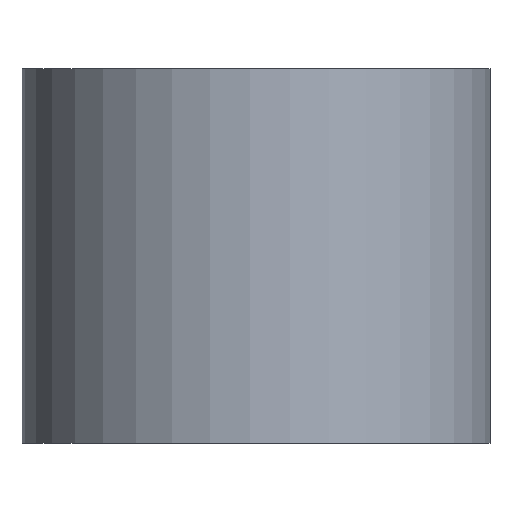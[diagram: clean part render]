
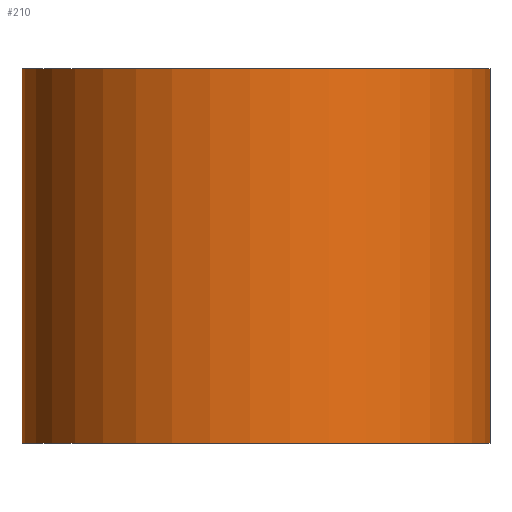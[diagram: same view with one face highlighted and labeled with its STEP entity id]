
A CAD part, front view. The second image highlights one B-rep face of the part: STEP entity #210.
In plain terms, the highlighted cylindrical face has radius 10 mm (diameter 20 mm), a partial arc.
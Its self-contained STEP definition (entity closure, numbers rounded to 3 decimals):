
#6 = AXIS2_PLACEMENT_3D ( 'NONE', #239, #110, #96 ) ;
#22 = FACE_OUTER_BOUND ( 'NONE', #216, .T. ) ;
#32 = DIRECTION ( 'NONE',  ( 0., 0., 1. ) ) ;
#37 = EDGE_CURVE ( 'NONE', #172, #196, #153, .T. ) ;
#50 = CARTESIAN_POINT ( 'NONE',  ( 9.987, -0.5, 0. ) ) ;
#61 = CARTESIAN_POINT ( 'NONE',  ( -10., 0., 16. ) ) ;
#62 = DIRECTION ( 'NONE',  ( 0., 0., 1. ) ) ;
#64 = AXIS2_PLACEMENT_3D ( 'NONE', #128, #85, #178 ) ;
#68 = DIRECTION ( 'NONE',  ( 0., 0., -1. ) ) ;
#76 = VERTEX_POINT ( 'NONE', #161 ) ;
#78 = EDGE_CURVE ( 'NONE', #172, #76, #154, .T. ) ;
#85 = DIRECTION ( 'NONE',  ( 0., 0., -1. ) ) ;
#87 = VECTOR ( 'NONE', #62, 1000. ) ;
#96 = DIRECTION ( 'NONE',  ( 1., 0., 0. ) ) ;
#110 = DIRECTION ( 'NONE',  ( 0., 0., 1. ) ) ;
#128 = CARTESIAN_POINT ( 'NONE',  ( 0., 0., 16. ) ) ;
#129 = ORIENTED_EDGE ( 'NONE', *, *, #37, .T. ) ;
#132 = ORIENTED_EDGE ( 'NONE', *, *, #260, .T. ) ;
#153 = LINE ( 'NONE', #242, #204 ) ;
#154 = CIRCLE ( 'NONE', #166, 10. ) ;
#155 = VERTEX_POINT ( 'NONE', #50 ) ;
#161 = CARTESIAN_POINT ( 'NONE',  ( 9.987, -0.5, 16. ) ) ;
#166 = AXIS2_PLACEMENT_3D ( 'NONE', #175, #32, #221 ) ;
#172 = VERTEX_POINT ( 'NONE', #61 ) ;
#175 = CARTESIAN_POINT ( 'NONE',  ( 0., 0., 16. ) ) ;
#178 = DIRECTION ( 'NONE',  ( -1., 0., 0. ) ) ;
#184 = LINE ( 'NONE', #186, #87 ) ;
#186 = CARTESIAN_POINT ( 'NONE',  ( 9.987, -0.5, 16. ) ) ;
#196 = VERTEX_POINT ( 'NONE', #226 ) ;
#204 = VECTOR ( 'NONE', #68, 1000. ) ;
#210 = ADVANCED_FACE ( 'NONE', ( #22 ), #218, .T. ) ;
#216 = EDGE_LOOP ( 'NONE', ( #243, #129, #132, #223 ) ) ;
#218 = CYLINDRICAL_SURFACE ( 'NONE', #64, 10. ) ;
#221 = DIRECTION ( 'NONE',  ( 1., 0., 0. ) ) ;
#223 = ORIENTED_EDGE ( 'NONE', *, *, #225, .T. ) ;
#225 = EDGE_CURVE ( 'NONE', #155, #76, #184, .T. ) ;
#226 = CARTESIAN_POINT ( 'NONE',  ( -10., 0., 0. ) ) ;
#227 = CIRCLE ( 'NONE', #6, 10. ) ;
#239 = CARTESIAN_POINT ( 'NONE',  ( 0., 0., 0. ) ) ;
#242 = CARTESIAN_POINT ( 'NONE',  ( -10., 0., 16. ) ) ;
#243 = ORIENTED_EDGE ( 'NONE', *, *, #78, .F. ) ;
#260 = EDGE_CURVE ( 'NONE', #196, #155, #227, .T. ) ;
